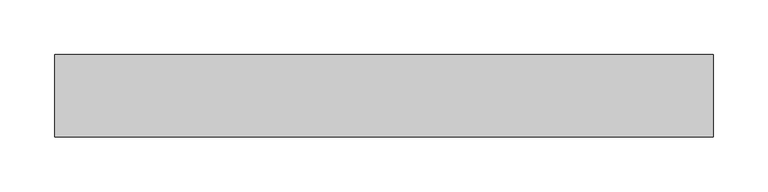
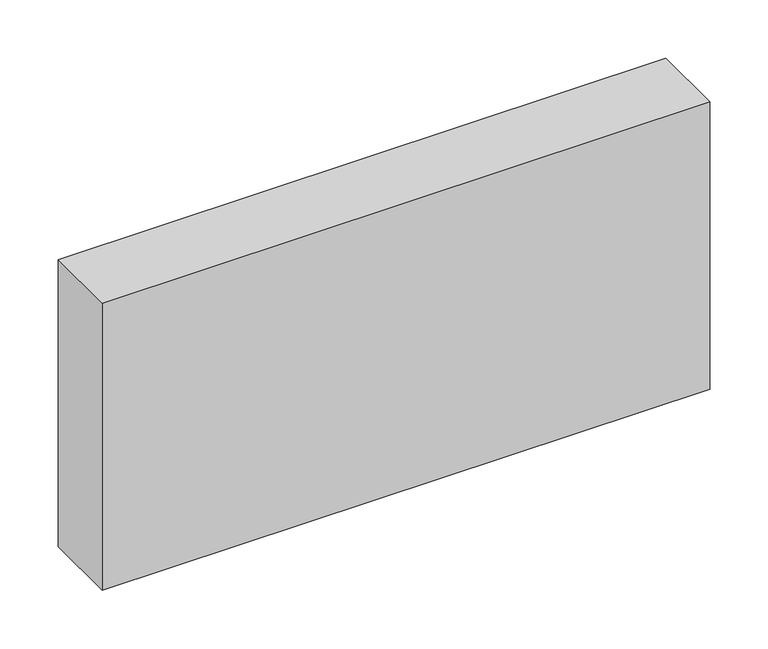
"""IFC4 building model written with IfcOpenShell, lengths in millimetres: proxy geometry, Módulo de Vedação de Concreto Celular - Celucon : MVCC 07,5x30x60cm (L x A x C)."""

from ifc_helpers import new_model, si_unit, origin, origin_with_axes, place, context, project, spatial, polyline, outline, extrude, source, transform, mapped, element, save


def generic_models_7dfa735e(model_context):
    return source(origin(), model_context, "Body", "SweptSolid", [
        extrude(outline(polyline([(300.0, 37.5), (300.0, -37.5), (-300.0, -37.5), (-300.0, 37.5), (300.0, 37.5)])), origin_with_axes(), (0.0, 0.0, 1.0), 300.0),
    ])


if __name__ == "__main__":
    model = new_model("IFC4")
    model_context = context("Model", 3, world=origin())
    ifc_project = project(units=[si_unit("LENGTHUNIT", "METRE", prefix="MILLI")], contexts=[model_context])
    site = spatial("IfcSite", under=ifc_project)
    building = spatial("IfcBuilding", under=site)
    placement = place(None, origin())
    generic_models_shape = generic_models_7dfa735e(model_context)
    element("IfcBuildingElementProxy", 1, Name="Módulo de Vedação de Concreto Celular - Celucon : MVCC 07,5x30x60cm (L x A x C)", ObjectType="Módulo de Vedação de Concreto Celular - Celucon : MVCC 07,5x30x60cm (L x A x C)", at=placement, inside=building, context=model_context, shape_type="MappedRepresentation", body=[
        mapped(generic_models_shape, transform((0.0, 0.0, 0.0), x_axis=(1.0, 0.0, 0.0), y_axis=(0.0, 1.0, 0.0), z_axis=(0.0, 0.0, 1.0))),
    ])
    save(model, "model.ifc")
